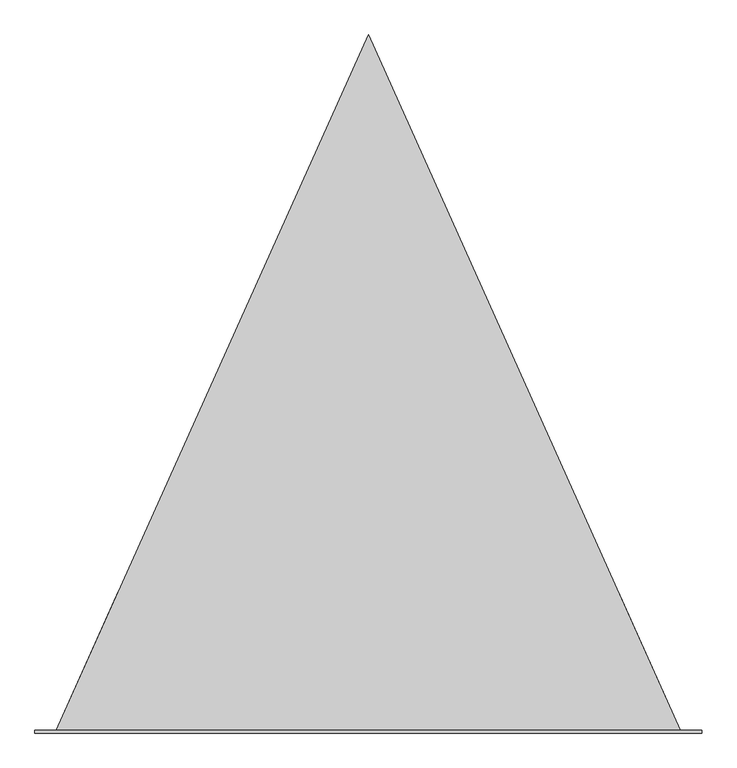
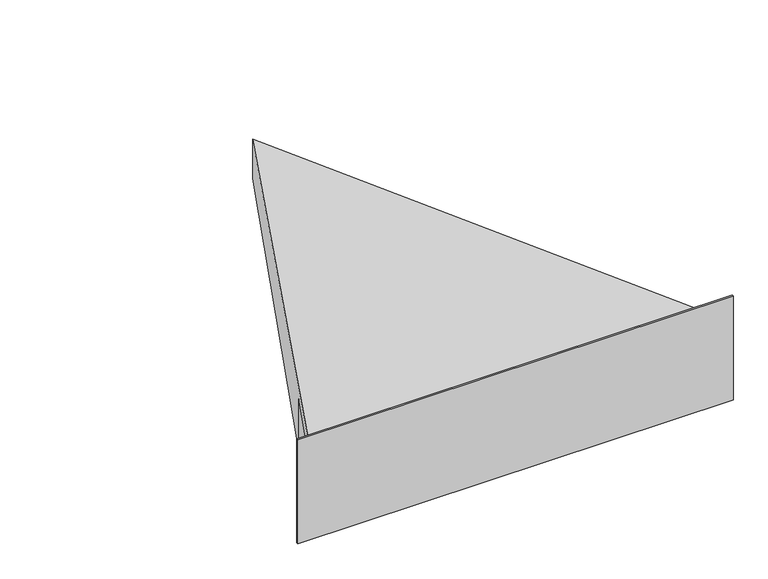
"""IFC4 building model written with IfcOpenShell, lengths in millimetres: proxy geometry, SU.HS.FOOT.2200."""

from ifc_helpers import new_model, si_unit, origin, place, context, project, spatial, faceted_brep, source, transform, mapped, element, save


def generic_models_40013f77(model_context):
    return source(origin(), model_context, "Body", "Brep", [
        faceted_brep([(-1185.0, -10.0, 500.0), (-1185.0, -10.0, -100.0), (1185.0, -10.0, -100.0), (1185.0, -10.0, 500.0), (-913.0, 0.0, 100.0), (-886.9931376, 496.2404955, 73.9931376), (-1110.0, 0.0, 100.0), (913.0, 0.0, 100.0), (886.9931376, 496.2404955, 73.9931376), (886.9931376, 496.2404955, 326.0068624), (913.0, 0.0, 300.0), (1110.0, 0.0, 300.0), (-1185.0, 0.0, 500.0), (1185.0, 0.0, 500.0), (1185.0, 0.0, -100.0), (-1185.0, 0.0, -100.0), (-1110.0, 0.0, 300.0), (-913.0, 0.0, 300.0), (-1110.0, 0.0, 0.0), (1110.0, 0.0, 0.0), (1110.0, 0.0, 100.0), (1110.0, 0.0, 400.0), (-1110.0, 0.0, 400.0), (-886.9931376, 496.2404955, 326.0068624), (0.0, 2470.0, 313.7456994), (0.0, 2470.0, 86.2543006)], [[[0, 1, 2, 3]], [[4, 5, 6]], [[7, 8, 9, 10]], [[10, 9, 11]], [[12, 13, 14, 15], [16, 17, 4, 6, 18, 19, 20, 7, 10, 11, 21, 22]], [[16, 23, 17]], [[17, 23, 5, 4]], [[22, 21, 24]], [[8, 20, 19, 25, 24, 21, 11, 9]], [[25, 19, 18]], [[25, 18, 6, 5, 23, 16, 22, 24]], [[8, 7, 20]], [[13, 12, 0, 3]], [[14, 13, 3, 2]], [[15, 14, 2, 1]], [[12, 15, 1, 0]]]),
    ])


if __name__ == "__main__":
    model = new_model("IFC4")
    model_context = context("Model", 3, world=origin())
    ifc_project = project(units=[si_unit("LENGTHUNIT", "METRE", prefix="MILLI")], contexts=[model_context])
    site = spatial("IfcSite", under=ifc_project)
    building = spatial("IfcBuilding", under=site)
    placement = place(None, origin())
    generic_models_shape = generic_models_40013f77(model_context)
    element("IfcBuildingElementProxy", 1, Name="SU.HS.FOOT.2200", ObjectType="SU.HS.FOOT.2200", at=placement, inside=building, context=model_context, shape_type="MappedRepresentation", body=[
        mapped(generic_models_shape, transform((0.0, 0.0, 0.0), x_axis=(1.0, 0.0, 0.0), y_axis=(0.0, 1.0, 0.0), z_axis=(0.0, 0.0, 1.0))),
    ])
    save(model, "model.ifc")
